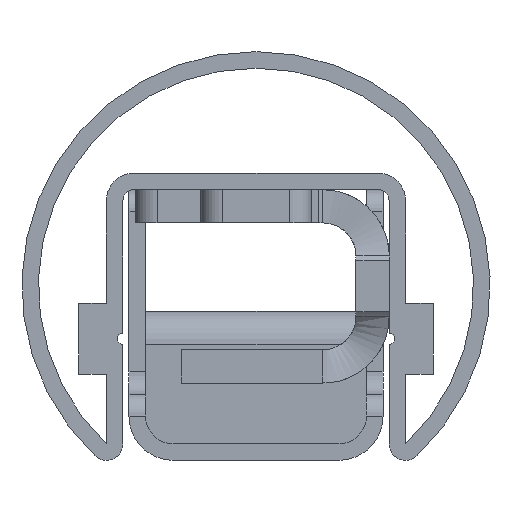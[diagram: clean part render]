
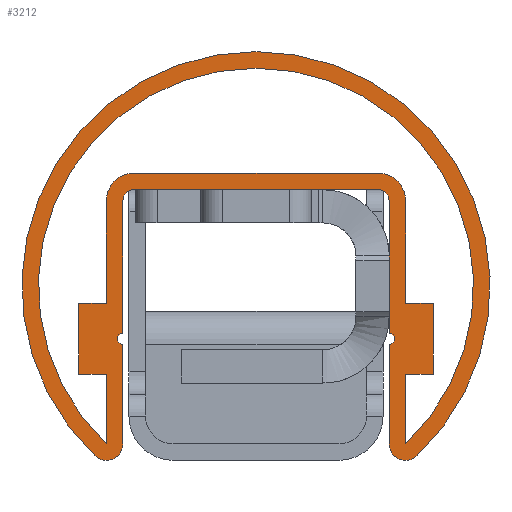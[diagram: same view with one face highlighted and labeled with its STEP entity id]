
A CAD part, front view. The second image highlights one B-rep face of the part: STEP entity #3212.
In plain terms, the highlighted planar face has unit normal (0, -1, 0).
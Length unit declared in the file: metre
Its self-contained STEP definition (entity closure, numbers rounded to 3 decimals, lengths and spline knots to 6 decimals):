
#145=PLANE('',#3511);
#346=LINE('',#5764,#648);
#350=LINE('',#5773,#652);
#353=LINE('',#5784,#655);
#356=LINE('',#5790,#658);
#363=LINE('',#5809,#665);
#365=LINE('',#5817,#667);
#368=LINE('',#5823,#670);
#376=LINE('',#5845,#678);
#380=LINE('',#5857,#682);
#384=LINE('',#5869,#686);
#385=LINE('',#5877,#687);
#386=LINE('',#5879,#688);
#387=LINE('',#5881,#689);
#388=LINE('',#5883,#690);
#389=LINE('',#5884,#691);
#390=LINE('',#5886,#692);
#648=VECTOR('',#4152,1.);
#652=VECTOR('',#4158,1.);
#655=VECTOR('',#4169,1.);
#658=VECTOR('',#4174,1.);
#665=VECTOR('',#4189,1.);
#667=VECTOR('',#4199,1.);
#670=VECTOR('',#4204,1.);
#678=VECTOR('',#4220,1.);
#682=VECTOR('',#4232,1.);
#686=VECTOR('',#4244,1.);
#687=VECTOR('',#4259,1.);
#688=VECTOR('',#4260,1.);
#689=VECTOR('',#4261,1.);
#690=VECTOR('',#4262,1.);
#691=VECTOR('',#4263,1.);
#692=VECTOR('',#4264,1.);
#1373=ORIENTED_EDGE('',*,*,#2011,.F.);
#1374=ORIENTED_EDGE('',*,*,#1956,.T.);
#1375=ORIENTED_EDGE('',*,*,#2008,.T.);
#1376=ORIENTED_EDGE('',*,*,#2006,.T.);
#1377=ORIENTED_EDGE('',*,*,#2012,.T.);
#1378=ORIENTED_EDGE('',*,*,#2013,.F.);
#1379=ORIENTED_EDGE('',*,*,#2014,.F.);
#1380=ORIENTED_EDGE('',*,*,#1960,.T.);
#1381=ORIENTED_EDGE('',*,*,#2002,.T.);
#1382=ORIENTED_EDGE('',*,*,#2000,.T.);
#1383=ORIENTED_EDGE('',*,*,#1997,.T.);
#1384=ORIENTED_EDGE('',*,*,#1994,.T.);
#1385=ORIENTED_EDGE('',*,*,#2015,.T.);
#1386=ORIENTED_EDGE('',*,*,#2016,.T.);
#1387=ORIENTED_EDGE('',*,*,#1984,.F.);
#1388=ORIENTED_EDGE('',*,*,#2017,.F.);
#1389=ORIENTED_EDGE('',*,*,#1981,.F.);
#1390=ORIENTED_EDGE('',*,*,#1980,.F.);
#1391=ORIENTED_EDGE('',*,*,#1977,.F.);
#1392=ORIENTED_EDGE('',*,*,#1974,.F.);
#1393=ORIENTED_EDGE('',*,*,#1968,.F.);
#1394=ORIENTED_EDGE('',*,*,#2018,.F.);
#1395=ORIENTED_EDGE('',*,*,#1965,.F.);
#1396=ORIENTED_EDGE('',*,*,#1964,.F.);
#1397=ORIENTED_EDGE('',*,*,#2010,.F.);
#1398=ORIENTED_EDGE('',*,*,#1990,.F.);
#1956=EDGE_CURVE('',#2320,#2322,#346,.T.);
#1960=EDGE_CURVE('',#2324,#2326,#350,.T.);
#1964=EDGE_CURVE('',#2330,#2327,#2534,.T.);
#1965=EDGE_CURVE('',#2327,#2331,#353,.T.);
#1968=EDGE_CURVE('',#2333,#2334,#356,.T.);
#1974=EDGE_CURVE('',#2334,#2337,#2536,.T.);
#1977=EDGE_CURVE('',#2337,#2339,#363,.T.);
#1980=EDGE_CURVE('',#2339,#2341,#2538,.T.);
#1981=EDGE_CURVE('',#2341,#2343,#365,.T.);
#1984=EDGE_CURVE('',#2345,#2346,#368,.T.);
#1990=EDGE_CURVE('',#2346,#2349,#2540,.T.);
#1994=EDGE_CURVE('',#2351,#2354,#376,.T.);
#1997=EDGE_CURVE('',#2355,#2351,#2542,.T.);
#2000=EDGE_CURVE('',#2357,#2355,#380,.T.);
#2002=EDGE_CURVE('',#2326,#2357,#2544,.T.);
#2006=EDGE_CURVE('',#2359,#2362,#384,.T.);
#2008=EDGE_CURVE('',#2322,#2359,#2546,.T.);
#2010=EDGE_CURVE('',#2349,#2330,#2548,.T.);
#2011=EDGE_CURVE('',#2320,#2363,#385,.T.);
#2012=EDGE_CURVE('',#2362,#2364,#386,.T.);
#2013=EDGE_CURVE('',#2365,#2364,#387,.T.);
#2014=EDGE_CURVE('',#2324,#2365,#388,.T.);
#2015=EDGE_CURVE('',#2354,#2366,#389,.T.);
#2016=EDGE_CURVE('',#2366,#2363,#390,.T.);
#2017=EDGE_CURVE('',#2343,#2345,#2549,.T.);
#2018=EDGE_CURVE('',#2331,#2333,#2550,.T.);
#2320=VERTEX_POINT('',#5759);
#2322=VERTEX_POINT('',#5763);
#2324=VERTEX_POINT('',#5768);
#2326=VERTEX_POINT('',#5772);
#2327=VERTEX_POINT('',#5776);
#2330=VERTEX_POINT('',#5781);
#2331=VERTEX_POINT('',#5785);
#2333=VERTEX_POINT('',#5791);
#2334=VERTEX_POINT('',#5792);
#2337=VERTEX_POINT('',#5800);
#2339=VERTEX_POINT('',#5806);
#2341=VERTEX_POINT('',#5812);
#2343=VERTEX_POINT('',#5818);
#2345=VERTEX_POINT('',#5824);
#2346=VERTEX_POINT('',#5825);
#2349=VERTEX_POINT('',#5833);
#2351=VERTEX_POINT('',#5839);
#2354=VERTEX_POINT('',#5844);
#2355=VERTEX_POINT('',#5848);
#2357=VERTEX_POINT('',#5854);
#2359=VERTEX_POINT('',#5863);
#2362=VERTEX_POINT('',#5868);
#2363=VERTEX_POINT('',#5878);
#2364=VERTEX_POINT('',#5880);
#2365=VERTEX_POINT('',#5882);
#2366=VERTEX_POINT('',#5885);
#2534=CIRCLE('',#3481,0.0015);
#2536=CIRCLE('',#3486,0.001);
#2538=CIRCLE('',#3490,0.001);
#2540=CIRCLE('',#3495,0.0015);
#2542=CIRCLE('',#3499,0.0025);
#2544=CIRCLE('',#3503,0.0025);
#2546=CIRCLE('',#3507,0.0197);
#2548=CIRCLE('',#3510,0.0212);
#2549=CIRCLE('',#3512,0.0005);
#2550=CIRCLE('',#3513,0.0005);
#2727=EDGE_LOOP('',(#1373,#1374,#1375,#1376,#1377,#1378,#1379,#1380,#1381,
#1382,#1383,#1384,#1385,#1386));
#2728=EDGE_LOOP('',(#1387,#1388,#1389,#1390,#1391,#1392,#1393,#1394,#1395,
#1396,#1397,#1398));
#2941=FACE_BOUND('',#2727,.T.);
#2942=FACE_BOUND('',#2728,.T.);
#3212=ADVANCED_FACE('',(#2941,#2942),#145,.F.);
#3481=AXIS2_PLACEMENT_3D('',#5782,#4165,#4166);
#3486=AXIS2_PLACEMENT_3D('',#5803,#4183,#4184);
#3490=AXIS2_PLACEMENT_3D('',#5815,#4195,#4196);
#3495=AXIS2_PLACEMENT_3D('',#5836,#4213,#4214);
#3499=AXIS2_PLACEMENT_3D('',#5851,#4226,#4227);
#3503=AXIS2_PLACEMENT_3D('',#5860,#4237,#4238);
#3507=AXIS2_PLACEMENT_3D('',#5872,#4249,#4250);
#3510=AXIS2_PLACEMENT_3D('',#5875,#4255,#4256);
#3511=AXIS2_PLACEMENT_3D('',#5876,#4257,#4258);
#3512=AXIS2_PLACEMENT_3D('',#5887,#4265,#4266);
#3513=AXIS2_PLACEMENT_3D('',#5888,#4267,#4268);
#4152=DIRECTION('',(0.,0.,1.));
#4158=DIRECTION('',(0.,0.,-1.));
#4165=DIRECTION('',(0.,1.,0.));
#4166=DIRECTION('',(-1.,0.,0.));
#4169=DIRECTION('',(0.,0.,-1.));
#4174=DIRECTION('',(0.,0.,-1.));
#4183=DIRECTION('',(0.,-1.,0.));
#4184=DIRECTION('',(1.,0.,0.));
#4189=DIRECTION('',(1.,0.,0.));
#4195=DIRECTION('',(0.,-1.,0.));
#4196=DIRECTION('',(-1.,0.,0.));
#4199=DIRECTION('',(0.,0.,1.));
#4204=DIRECTION('',(0.,0.,1.));
#4213=DIRECTION('',(0.,1.,0.));
#4214=DIRECTION('',(1.,0.,0.));
#4220=DIRECTION('',(0.,0.,1.));
#4226=DIRECTION('',(0.,-1.,0.));
#4227=DIRECTION('',(-1.,0.,0.));
#4232=DIRECTION('',(1.,0.,0.));
#4237=DIRECTION('',(0.,-1.,0.));
#4238=DIRECTION('',(1.,0.,0.));
#4244=DIRECTION('',(0.,0.,-1.));
#4249=DIRECTION('',(0.,1.,0.));
#4250=DIRECTION('',(0.,0.,1.));
#4255=DIRECTION('',(0.,1.,0.));
#4256=DIRECTION('',(0.,0.,1.));
#4257=DIRECTION('',(0.,1.,0.));
#4258=DIRECTION('',(1.,0.,0.));
#4259=DIRECTION('',(1.,0.,0.));
#4260=DIRECTION('',(-1.,0.,0.));
#4261=DIRECTION('',(0.,0.,1.));
#4262=DIRECTION('',(-1.,0.,0.));
#4263=DIRECTION('',(1.,0.,0.));
#4264=DIRECTION('',(0.,0.,1.));
#4265=DIRECTION('',(0.,-1.,0.));
#4266=DIRECTION('',(0.,0.,-1.));
#4267=DIRECTION('',(0.,-1.,0.));
#4268=DIRECTION('',(0.,0.,-1.));
#5759=CARTESIAN_POINT('',(0.01355,-0.05,0.008));
#5763=CARTESIAN_POINT('',(0.01355,-0.05,0.0143));
#5764=CARTESIAN_POINT('',(0.01355,-0.05,0.007962));
#5768=CARTESIAN_POINT('',(-0.01355,-0.05,0.0016));
#5772=CARTESIAN_POINT('',(-0.01355,-0.05,-0.0077));
#5773=CARTESIAN_POINT('',(-0.01355,-0.05,0.001638));
#5776=CARTESIAN_POINT('',(-0.01205,-0.05,0.0143));
#5781=CARTESIAN_POINT('',(-0.014582,-0.05,0.015389));
#5782=CARTESIAN_POINT('',(-0.01355,-0.05,0.0143));
#5784=CARTESIAN_POINT('',(-0.01205,-0.05,0.0143));
#5785=CARTESIAN_POINT('',(-0.01205,-0.05,0.0053));
#5790=CARTESIAN_POINT('',(-0.01205,-0.05,0.001971));
#5791=CARTESIAN_POINT('',(-0.01205,-0.05,0.0043));
#5792=CARTESIAN_POINT('',(-0.01205,-0.05,-0.0077));
#5800=CARTESIAN_POINT('',(-0.01105,-0.05,-0.0087));
#5803=CARTESIAN_POINT('',(-0.01105,-0.05,-0.0077));
#5806=CARTESIAN_POINT('',(0.01105,-0.05,-0.0087));
#5809=CARTESIAN_POINT('',(-0.01105,-0.05,-0.0087));
#5812=CARTESIAN_POINT('',(0.01205,-0.05,-0.0077));
#5815=CARTESIAN_POINT('',(0.01105,-0.05,-0.0077));
#5817=CARTESIAN_POINT('',(0.01205,-0.05,-0.0077));
#5818=CARTESIAN_POINT('',(0.01205,-0.05,0.0043));
#5823=CARTESIAN_POINT('',(0.01205,-0.05,0.007628));
#5824=CARTESIAN_POINT('',(0.01205,-0.05,0.0053));
#5825=CARTESIAN_POINT('',(0.01205,-0.05,0.0143));
#5833=CARTESIAN_POINT('',(0.014582,-0.05,0.015389));
#5836=CARTESIAN_POINT('',(0.01355,-0.05,0.0143));
#5839=CARTESIAN_POINT('',(0.01355,-0.05,-0.0077));
#5844=CARTESIAN_POINT('',(0.01355,-0.05,0.0016));
#5845=CARTESIAN_POINT('',(0.01355,-0.05,-0.0077));
#5848=CARTESIAN_POINT('',(0.01105,-0.05,-0.0102));
#5851=CARTESIAN_POINT('',(0.01105,-0.05,-0.0077));
#5854=CARTESIAN_POINT('',(-0.01105,-0.05,-0.0102));
#5857=CARTESIAN_POINT('',(-0.01105,-0.05,-0.0102));
#5860=CARTESIAN_POINT('',(-0.01105,-0.05,-0.0077));
#5863=CARTESIAN_POINT('',(-0.01355,-0.05,0.0143));
#5868=CARTESIAN_POINT('',(-0.01355,-0.05,0.008));
#5869=CARTESIAN_POINT('',(-0.01355,-0.05,0.0143));
#5872=CARTESIAN_POINT('',(0.,-0.05,0.));
#5875=CARTESIAN_POINT('',(0.,-0.05,0.));
#5876=CARTESIAN_POINT('',(-0.01355,-0.05,0.0143));
#5877=CARTESIAN_POINT('',(0.01405,-0.05,0.008));
#5878=CARTESIAN_POINT('',(0.01605,-0.05,0.008));
#5879=CARTESIAN_POINT('',(-0.01405,-0.05,0.008));
#5880=CARTESIAN_POINT('',(-0.01605,-0.05,0.008));
#5881=CARTESIAN_POINT('',(-0.01605,-0.05,0.0048));
#5882=CARTESIAN_POINT('',(-0.01605,-0.05,0.0016));
#5883=CARTESIAN_POINT('',(-0.01405,-0.05,0.0016));
#5884=CARTESIAN_POINT('',(0.01405,-0.05,0.0016));
#5885=CARTESIAN_POINT('',(0.01605,-0.05,0.0016));
#5886=CARTESIAN_POINT('',(0.01605,-0.05,0.0048));
#5887=CARTESIAN_POINT('',(0.01205,-0.05,0.0048));
#5888=CARTESIAN_POINT('',(-0.01205,-0.05,0.0048));
